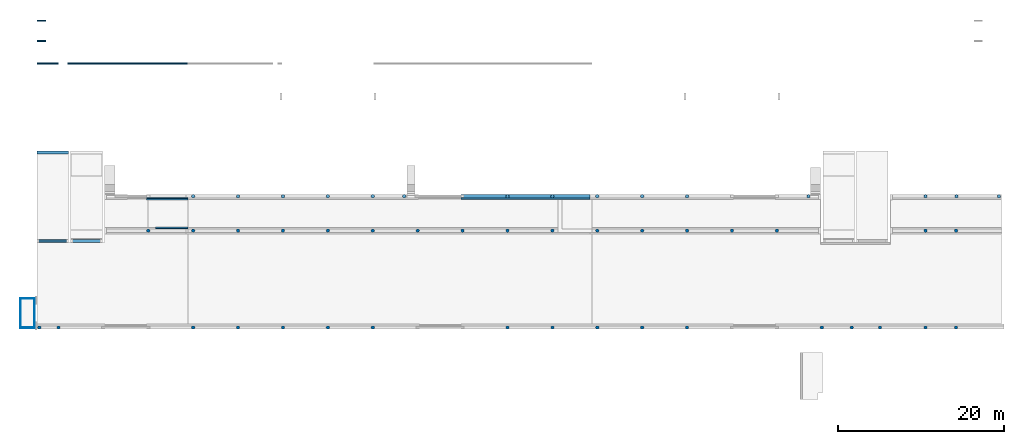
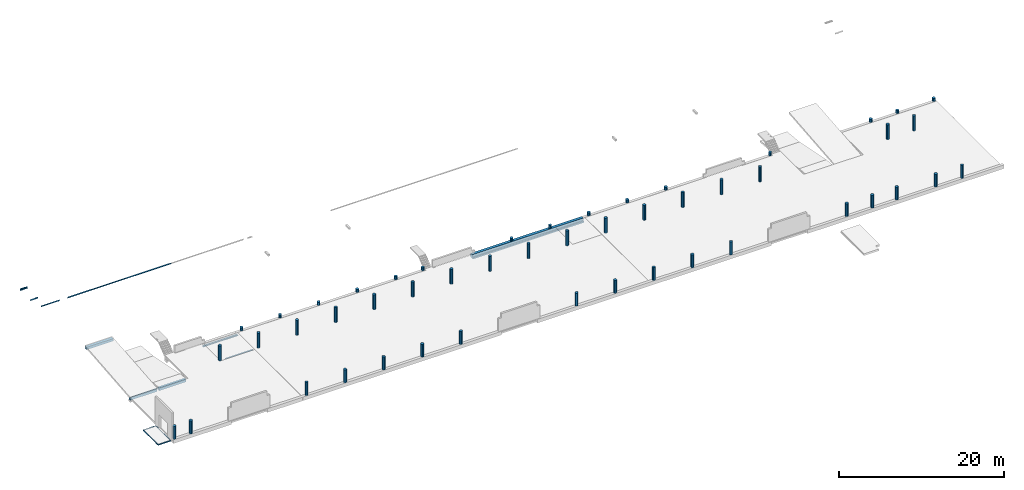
# One storey, part 1 of 6: 49 columns, 14 beams.
"""IFC2X3 building model written with IfcOpenShell, lengths in millimetres."""

from ifc_helpers import new_model, entity, si_unit, converted_unit, derived_unit, direction, frame, frame_2d, origin, place, context, subcontext, project, spatial, polyline, circle_curve, parameter, trimmed, segment, composite_curve, rectangle, circle, outline, extrude, source, transform, mapped, material, type_object, type_shapes, element, save


model = new_model("IFC2X3")

# Units and contexts
model_context = context("Model", 3, precision=0.01, world=origin(), true_north=direction((6.12303176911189e-17, 1.0)))
body_context = subcontext(model_context, "Body", "Model", "MODEL_VIEW")
ifc_project = project(units=[si_unit("LENGTHUNIT", "METRE", prefix="MILLI"), si_unit("AREAUNIT", "SQUARE_METRE"), si_unit("VOLUMEUNIT", "CUBIC_METRE"), converted_unit("PLANEANGLEUNIT", "DEGREE", entity("IfcRatioMeasure", 0.0174532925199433), si_unit("PLANEANGLEUNIT", "RADIAN"), dimensions=[0, 0, 0, 0, 0, 0, 0]), si_unit("MASSUNIT", "GRAM", prefix="KILO"), derived_unit("MASSDENSITYUNIT", [(si_unit("MASSUNIT", "GRAM", prefix="KILO"), 1), (si_unit("LENGTHUNIT", "METRE"), -3)]), si_unit("TIMEUNIT", "SECOND"), si_unit("FREQUENCYUNIT", "HERTZ"), si_unit("THERMODYNAMICTEMPERATUREUNIT", "DEGREE_CELSIUS"), derived_unit("THERMALTRANSMITTANCEUNIT", [(si_unit("MASSUNIT", "GRAM", prefix="KILO"), 1), (si_unit("THERMODYNAMICTEMPERATUREUNIT", "KELVIN"), -1), (si_unit("TIMEUNIT", "SECOND"), -3)]), derived_unit("VOLUMETRICFLOWRATEUNIT", [(si_unit("LENGTHUNIT", "METRE"), 3), (si_unit("TIMEUNIT", "SECOND"), -1)]), si_unit("ELECTRICCURRENTUNIT", "AMPERE"), si_unit("ELECTRICVOLTAGEUNIT", "VOLT"), si_unit("POWERUNIT", "WATT"), si_unit("FORCEUNIT", "NEWTON", prefix="KILO"), si_unit("ILLUMINANCEUNIT", "LUX"), si_unit("LUMINOUSFLUXUNIT", "LUMEN"), si_unit("LUMINOUSINTENSITYUNIT", "CANDELA"), derived_unit("USERDEFINED", [(si_unit("MASSUNIT", "GRAM", prefix="KILO"), -1), (si_unit("LENGTHUNIT", "METRE"), -2), (si_unit("TIMEUNIT", "SECOND"), 3), (si_unit("LUMINOUSFLUXUNIT", "LUMEN"), 1)]), derived_unit("LINEARVELOCITYUNIT", [(si_unit("LENGTHUNIT", "METRE"), 1), (si_unit("TIMEUNIT", "SECOND"), -1)]), si_unit("PRESSUREUNIT", "PASCAL"), derived_unit("USERDEFINED", [(si_unit("LENGTHUNIT", "METRE"), -2), (si_unit("MASSUNIT", "GRAM", prefix="KILO"), 1), (si_unit("TIMEUNIT", "SECOND"), -2)])], contexts=[model_context])

# Site, building, storey
site_placement = place(None, origin())
site = spatial("IfcSite", under=ifc_project, at=site_placement, Name="Default", CompositionType="ELEMENT")
building_placement = place(site_placement, origin())
building = spatial("IfcBuilding", under=site, at=building_placement, Name="niet gebruiken", CompositionType="ELEMENT")
storey_placement = place(building_placement, frame((0.0, 0.0, 8370.0)))
storey = spatial("IfcBuildingStorey", under=building, at=storey_placement, Name="02a eerste tussenverdieping", CompositionType="ELEMENT", Elevation=8369.99999999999)

# Columns
ifc_material_1 = material(Name="NLRS_f2_beton prefab")
column_type_1 = type_object("IfcColumnType", Name="ø400", PredefinedType="COLUMN", material=ifc_material_1)
shared_shape_1 = source(origin(), body_context, "Body", "SweptSolid", [
    extrude(circle(Radius=200.0, at=frame_2d((1.69197988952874e-14, -3.02923644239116e-13), x_axis=(1.0, 0.0))), frame((0.0, 0.0, 8400.0)), (0.0, 0.0, 1.0), 459.999999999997),
])
type_shapes(column_type_1, [shared_shape_1])
for number, where in (
    (1, (27000.0, 24976.0, -8370.0)),
    (2, (32400.0, 24976.0, -8370.0)),
    (3, (37800.0, 24976.0, -8370.0)),
    (4, (43200.0, 24976.0, -8370.0)),
    (5, (48600.0, 24976.0, -8370.0)),
    (6, (52390.0, 24976.0, -8370.0)),
    (7, (64800.0, 24976.0, -8370.0)),
    (8, (70200.0, 24976.0, -8370.0)),
    (9, (75600.0, 24976.0, -8370.0)),
    (10, (81000.0, 24976.0, -8370.0)),
    (11, (86400.0, 24976.0, -8370.0)),
    (12, (100990.0, 24976.0, -8370.0)),
    (13, (118800.0, 24976.0, -8370.0)),
    (14, (115075.000813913, 24976.0, -8370.0)),
):
    element("IfcColumn", number, at=place(storey_placement, frame(where)), inside=storey, type_object=column_type_1, material=ifc_material_1, Name="NLRS_28. kolom rond_gen:ø400", ObjectType="ø400", context=body_context, shape_type="MappedRepresentation", body=[
        mapped(shared_shape_1, transform((0.0, 0.0, 0.0), scale=1.0)),
    ])
column_type_2 = type_object("IfcColumnType", Name="ø400", PredefinedType="COLUMN", material=ifc_material_1)
shared_shape_2 = source(origin(), body_context, "Body", "SweptSolid", [
    extrude(circle(Radius=200.0, at=frame_2d((1.69197988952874e-14, -3.02923644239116e-13), x_axis=(1.0, 0.0))), frame((0.0, 0.0, 8320.0)), (0.0, 0.0, 1.0), 2240.0),
])
type_shapes(column_type_2, [shared_shape_2])
for number, where in (
    (15, (21600.0, 20846.0, -8370.0)),
    (16, (27000.0, 20846.0, -8370.0)),
    (17, (32400.0, 20846.0, -8370.0)),
    (18, (37800.0, 20846.0, -8370.0)),
    (19, (43200.0, 20846.0, -8370.0)),
    (20, (48600.0, 20846.0, -8370.0)),
    (21, (54000.0, 20846.0, -8370.0)),
    (22, (59400.0, 20846.0, -8370.0)),
    (23, (64800.0, 20846.0, -8370.0)),
    (24, (70200.0, 20846.0, -8370.0)),
    (25, (75600.0, 20846.0, -8370.0)),
    (26, (81000.0, 20846.0, -8370.0)),
    (27, (86400.0, 20846.0, -8370.0)),
    (28, (91800.0, 20846.0, -8370.0)),
    (29, (97200.0, 20846.0, -8370.0)),
    (30, (115075.000813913, 20846.0, -8370.0)),
    (31, (118750.0, 20846.0, -8370.0)),
):
    element("IfcColumn", number, at=place(storey_placement, frame(where)), inside=storey, type_object=column_type_2, material=ifc_material_1, Name="NLRS_28. kolom rond_gen:ø400", ObjectType="ø400", context=body_context, shape_type="MappedRepresentation", body=[
        mapped(shared_shape_2, transform((0.0, 0.0, 0.0), scale=1.0)),
    ])
column_type_3 = type_object("IfcColumnType", Name="ø400", PredefinedType="COLUMN", material=ifc_material_1)
shared_shape_3 = source(origin(), body_context, "Body", "SweptSolid", [
    extrude(circle(Radius=200.0, at=frame_2d((1.69197988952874e-14, -3.02923644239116e-13), x_axis=(1.0, 0.0))), frame((0.0, 0.0, 8400.0)), (0.0, 0.0, 1.0), 1910.0),
])
type_shapes(column_type_3, [shared_shape_3])
for number, where in (
    (32, (8500.0, 9196.0, -8370.0)),
    (33, (10800.0, 9196.0, -8370.0)),
    (34, (27000.0, 9196.0, -8370.0)),
    (35, (32400.0, 9196.0, -8370.0)),
    (36, (37800.0, 9196.0, -8370.0)),
    (37, (43200.0, 9196.0, -8370.0)),
    (38, (48600.0, 9196.0, -8370.0)),
    (39, (64800.0, 9196.0, -8370.0)),
    (40, (70200.0, 9196.0, -8370.0)),
    (41, (75600.0, 9196.0, -8370.0)),
    (42, (81000.0, 9196.0, -8370.0)),
    (43, (86400.0, 9196.0, -8370.0)),
    (44, (102600.0, 9196.0, -8370.0)),
    (45, (118750.0, 9196.0, -8370.0)),
    (46, (115075.0, 9196.0, -8370.0)),
    (47, (109600.0, 9196.0, -8370.0)),
    (48, (106200.0, 9196.0, -8370.0)),
):
    element("IfcColumn", number, at=place(storey_placement, frame(where)), inside=storey, type_object=column_type_3, material=ifc_material_1, Name="NLRS_28. kolom rond_gen:ø400", ObjectType="ø400", context=body_context, shape_type="MappedRepresentation", body=[
        mapped(shared_shape_3, transform((0.0, 0.0, 0.0), scale=1.0)),
    ])
column_type_4 = type_object("IfcColumnType", Name="ø400", PredefinedType="COLUMN", material=ifc_material_1)
shared_shape_4 = source(origin(), body_context, "Body", "SweptSolid", [
    extrude(circle(Radius=200.000000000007, at=frame_2d((-3.75232390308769e-25, -8.66293703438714e-12), x_axis=(1.0, 0.0))), frame((123900.0, 24976.0, 8400.0)), (0.0, 0.0, 1.0), 459.999999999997),
])
type_shapes(column_type_4, [shared_shape_4])
column_placement = place(storey_placement, frame((0.0, 0.0, -8370.0)))
element("IfcColumn", 49, at=column_placement, inside=storey, type_object=column_type_4, material=ifc_material_1, Name="NLRS_28. kolom rond_gen:ø400", ObjectType="ø400", context=body_context, shape_type="MappedRepresentation", body=[
    mapped(shared_shape_4, transform((0.0, 0.0, 0.0), scale=1.0)),
])

# Beams
ifc_material_2 = material(Name="NLRS_h2_staal")
beam_type_1 = type_object("IfcBeamType", Name="NLRS_28.11_SF_WPB_stalen ligger hoekprofiel gelijkzijdig_gen:ligger gelijzijdig hoekprofiel LEQU_150x150x15", PredefinedType="BEAM")
beam_1_placement = place(storey_placement, frame((8245.0, 46133.5000000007, -330.0)))
element("IfcBeam", 50, at=beam_1_placement, inside=storey, type_object=beam_type_1, material=ifc_material_2, Name="NLRS_28.11_SF_WPB_stalen ligger hoekprofiel gelijkzijdig_gen:ligger gelijzijdig hoekprofiel LEQU_150x150x15", ObjectType="NLRS_28.11_SF_WPB_stalen ligger hoekprofiel gelijkzijdig_gen:ligger gelijzijdig hoekprofiel LEQU_150x150x15", context=body_context, shape_type="SweptSolid", body=[
    extrude(outline(composite_curve([segment(polyline([(49.6666666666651, -93.3333333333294), (56.6666666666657, -93.3333333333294)]), True, "CONTINUOUS"), segment(polyline([(56.6666666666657, -93.3333333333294), (56.6666666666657, 56.6666666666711)]), True, "CONTINUOUS"), segment(polyline([(56.6666666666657, 56.6666666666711), (-93.3333333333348, 56.6666666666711)]), True, "CONTINUOUS"), segment(polyline([(-93.3333333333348, 56.6666666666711), (-93.3333333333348, 49.6666666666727)]), True, "CONTINUOUS"), segment(trimmed(circle_curve(frame_2d((-85.3333333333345, 49.6666666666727), x_axis=(-1.0, 0.0)), 7.99999999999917), [parameter(0.0)], [parameter(90.0000000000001)], True, "PARAMETER"), True, "CONTINUOUS"), segment(polyline([(-85.3333333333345, 41.6666666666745), (25.6666666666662, 41.6666666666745)]), True, "CONTINUOUS"), segment(trimmed(circle_curve(frame_2d((25.6666666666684, 25.6666666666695), x_axis=(0.0, 1.0)), 15.9999999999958), [parameter(269.999999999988)], [parameter(0.0)], True, "PARAMETER"), False, "CONTINUOUS"), segment(polyline([(41.6666666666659, 25.6666666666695), (41.6666666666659, -85.3333333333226)]), True, "CONTINUOUS"), segment(trimmed(circle_curve(frame_2d((49.6666666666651, -85.3333333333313), x_axis=(-1.0, 0.0)), 7.99999999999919), [parameter(0.0)], [parameter(90.0000000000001)], True, "PARAMETER"), True, "CONTINUOUS")], self_intersect=False)), frame((0.0, -14.1666666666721, 56.6666666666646), z_axis=(1.0, 0.0, 0.0), x_axis=(0.0, 0.0, -1.0)), (0.0, 0.0, 1.0), 999.999999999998),
])
beam_2_placement = place(storey_placement, frame((8245.0, 43618.5000000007, -330.0)))
element("IfcBeam", 51, at=beam_2_placement, inside=storey, type_object=beam_type_1, material=ifc_material_2, Name="NLRS_28.11_SF_WPB_stalen ligger hoekprofiel gelijkzijdig_gen:ligger gelijzijdig hoekprofiel LEQU_150x150x15", ObjectType="NLRS_28.11_SF_WPB_stalen ligger hoekprofiel gelijkzijdig_gen:ligger gelijzijdig hoekprofiel LEQU_150x150x15", context=body_context, shape_type="SweptSolid", body=[
    extrude(outline(composite_curve([segment(polyline([(-93.3333333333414, -56.6666666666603), (56.6666666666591, -56.6666666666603)]), True, "CONTINUOUS"), segment(polyline([(56.6666666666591, -56.6666666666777), (56.6666666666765, 93.3333333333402)]), True, "CONTINUOUS"), segment(polyline([(56.6666666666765, 93.3333333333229), (49.6666666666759, 93.333333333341)]), True, "CONTINUOUS"), segment(trimmed(circle_curve(frame_2d((49.666666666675, 85.3333333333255), x_axis=(0.0, 1.0)), 7.99999999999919), [parameter(0.0)], [parameter(90.0000000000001)], True, "PARAMETER"), True, "CONTINUOUS"), segment(polyline([(41.6666666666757, 85.3333333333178), (41.6666666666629, -25.6666666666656)]), True, "CONTINUOUS"), segment(trimmed(circle_curve(frame_2d((25.6666666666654, -25.6666666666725), x_axis=(1.0, 0.0)), 15.9999999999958), [parameter(269.999999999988)], [parameter(0.0)], True, "PARAMETER"), False, "CONTINUOUS"), segment(polyline([(25.6666666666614, -41.6666666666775), (-85.3333333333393, -41.6666666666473)]), True, "CONTINUOUS"), segment(trimmed(circle_curve(frame_2d((-85.3333333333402, -49.6666666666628), x_axis=(0.0, 1.0)), 7.99999999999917), [parameter(0.0)], [parameter(90.0000000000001)], True, "PARAMETER"), True, "CONTINUOUS"), segment(polyline([(-93.3333333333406, -49.6666666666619), (-93.3333333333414, -56.6666666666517)]), True, "CONTINUOUS")], self_intersect=False)), frame((0.0, 14.1666666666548, 56.6666666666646), z_axis=(1.0, 0.0, 0.0), x_axis=(0.0, 0.0, -1.0)), (0.0, 0.0, 1.0), 999.999999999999),
])
beam_type_2 = type_object("IfcBeamType", Name="NLRS_28.11_SF_WPB_prefabbeton balk enkele sponning_gen:600x540/200x200", PredefinedType="BEAM")
beam_3_placement = place(storey_placement, frame((59200.0, 24876.0, 10.0)))
element("IfcBeam", 52, at=beam_3_placement, inside=storey, type_object=beam_type_2, material=ifc_material_1, Name="NLRS_28.11_SF_WPB_prefabbeton balk enkele sponning_gen:600x540/200x200", ObjectType="NLRS_28.11_SF_WPB_prefabbeton balk enkele sponning_gen:600x540/200x200", context=body_context, shape_type="SweptSolid", body=[
    extrude(outline(polyline([(46.6666666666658, -266.666666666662), (246.666666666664, -266.666666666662), (246.666666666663, 333.333333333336), (-293.333333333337, 333.333333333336), (-293.333333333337, -66.6666666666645), (46.6666666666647, -66.6666666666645), (46.6666666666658, -266.666666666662)])), frame((0.0, -33.3333333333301, -293.333333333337), z_axis=(1.0, 0.0, 0.0), x_axis=(0.0, 0.0, -1.0)), (0.0, 0.0, 1.0), 15530.0000000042),
])
beam_type_3 = type_object("IfcBeamType", Name="NLRS_28.11_SF_WPB_stalen ligger hoekprofiel gelijkzijdig_gen:ligger gelijzijdig hoekprofiel LEQU_200x200x15", PredefinedType="BEAM")
beam_4_placement = place(storey_placement, frame((22470.0, 21246.0, -252.500000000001)))
element("IfcBeam", 53, at=beam_4_placement, inside=storey, type_object=beam_type_3, material=ifc_material_2, Name="NLRS_28.11_SF_WPB_stalen ligger hoekprofiel gelijkzijdig_gen:ligger gelijzijdig hoekprofiel LEQU_200x200x15", ObjectType="NLRS_28.11_SF_WPB_stalen ligger hoekprofiel gelijkzijdig_gen:ligger gelijzijdig hoekprofiel LEQU_200x200x15", context=body_context, shape_type="SweptSolid", body=[
    extrude(outline(composite_curve([segment(polyline([(-126.66666666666, -73.3333333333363), (73.3333333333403, -73.3333333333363)]), True, "CONTINUOUS"), segment(polyline([(73.3333333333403, -73.3333333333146), (73.333333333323, 126.666666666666)]), True, "CONTINUOUS"), segment(polyline([(73.333333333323, 126.666666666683), (66.3333333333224, 126.666666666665)]), True, "CONTINUOUS"), segment(trimmed(circle_curve(frame_2d((66.333333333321, 118.666666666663), x_axis=(0.0, 1.0)), 7.99999999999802), [parameter(0.0)], [parameter(90.0000000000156)], True, "PARAMETER"), True, "CONTINUOUS"), segment(polyline([(58.3333333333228, 118.666666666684), (58.3333333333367, -42.333333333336)]), True, "CONTINUOUS"), segment(trimmed(circle_curve(frame_2d((42.3333333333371, -42.3333333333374), x_axis=(1.0, 0.0)), 16.0000000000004), [parameter(270.0)], [parameter(0.0)], True, "PARAMETER"), False, "CONTINUOUS"), segment(polyline([(42.3333333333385, -58.3333333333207), (-118.666666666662, -58.333333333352)]), True, "CONTINUOUS"), segment(trimmed(circle_curve(frame_2d((-118.666666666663, -66.3333333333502), x_axis=(0.0, 1.0)), 7.99999999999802), [parameter(0.0)], [parameter(90.0000000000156)], True, "PARAMETER"), True, "CONTINUOUS"), segment(polyline([(-126.66666666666, -66.3333333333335), (-126.66666666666, -73.3333333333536)]), True, "CONTINUOUS")], self_intersect=False)), frame((10.0, -126.666666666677, -19.1666666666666), z_axis=(1.0, 0.0, 0.0), x_axis=(0.0, 0.0, -1.0)), (0.0, 0.0, 1.0), 3870.00000000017),
])
beam_5_placement = place(storey_placement, frame((21400.0, 24576.0, -252.499999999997)))
element("IfcBeam", 54, at=beam_5_placement, inside=storey, type_object=beam_type_3, material=ifc_material_2, Name="NLRS_28.11_SF_WPB_stalen ligger hoekprofiel gelijkzijdig_gen:ligger gelijzijdig hoekprofiel LEQU_200x200x15", ObjectType="NLRS_28.11_SF_WPB_stalen ligger hoekprofiel gelijkzijdig_gen:ligger gelijzijdig hoekprofiel LEQU_200x200x15", context=body_context, shape_type="SweptSolid", body=[
    extrude(outline(composite_curve([segment(polyline([(66.3333333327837, -126.66666666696), (73.3333333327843, -126.66666666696)]), True, "CONTINUOUS"), segment(polyline([(73.3333333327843, -126.66666666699), (73.3333333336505, 73.3333333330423)]), True, "CONTINUOUS"), segment(polyline([(73.3333333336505, 73.333333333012), (-126.666666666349, 73.3333333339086)]), True, "CONTINUOUS"), segment(polyline([(-126.666666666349, 73.333333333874), (-126.66666666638, 66.3333333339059)]), True, "CONTINUOUS"), segment(trimmed(circle_curve(frame_2d((-118.666666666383, 66.3333333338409), x_axis=(-1.0, 0.0)), 7.99999999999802), [parameter(0.0)], [parameter(90.0000000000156)], True, "PARAMETER"), True, "CONTINUOUS"), segment(polyline([(-118.666666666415, 58.3333333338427), (42.333333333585, 58.3333333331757)]), True, "CONTINUOUS"), segment(trimmed(circle_curve(frame_2d((42.3333333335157, 42.3333333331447), x_axis=(0.0, 1.0)), 16.0000000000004), [parameter(270.0)], [parameter(0.0)], True, "PARAMETER"), False, "CONTINUOUS"), segment(polyline([(58.3333333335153, 42.3333333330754), (58.333333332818, -118.666666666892)]), True, "CONTINUOUS"), segment(trimmed(circle_curve(frame_2d((66.3333333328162, -118.666666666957), x_axis=(-1.0, 0.0)), 7.99999999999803), [parameter(0.0)], [parameter(90.0000000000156)], True, "PARAMETER"), True, "CONTINUOUS")], self_intersect=False)), frame((0.0, 126.666666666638, -19.1666666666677), z_axis=(1.0, 0.0, 0.0), x_axis=(0.0, 0.0, -1.0)), (0.0, 0.0, 1.0), 4950.00000000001),
])
beam_type_4 = type_object("IfcBeamType", Name="NLRS_28.11_SF_WPB_prefabbeton balk recht_gen:380x350", PredefinedType="BEAM")
beam_6_placement = place(storey_placement, frame((8245.0, 30236.0, 940.0)))
element("IfcBeam", 55, at=beam_6_placement, inside=storey, type_object=beam_type_4, material=ifc_material_1, Name="NLRS_28.11_SF_WPB_prefabbeton balk recht_gen:380x350", ObjectType="NLRS_28.11_SF_WPB_prefabbeton balk recht_gen:380x350", context=body_context, shape_type="SweptSolid", body=[
    extrude(rectangle(XDim=349.999999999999, YDim=380.0, at=frame_2d((-5.40012479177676e-13, 8.66862137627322e-12), x_axis=(1.0, 0.0))), frame((0.0, 0.0, -175.0), z_axis=(1.0, 0.0, 0.0), x_axis=(0.0, 0.0, -1.0)), (0.0, 0.0, 1.0), 3760.00000000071),
])
beam_7_placement = place(storey_placement, frame((12295.0, 19616.0, -100.0)))
element("IfcBeam", 56, at=beam_7_placement, inside=storey, type_object=beam_type_4, material=ifc_material_1, Name="NLRS_28.11_SF_WPB_prefabbeton balk recht_gen:380x350", ObjectType="NLRS_28.11_SF_WPB_prefabbeton balk recht_gen:380x350", context=body_context, shape_type="SweptSolid", body=[
    extrude(rectangle(XDim=349.999999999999, YDim=380.000000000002, at=frame_2d((5.40012479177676e-13, 2.92459390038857e-11), x_axis=(1.0, 0.0))), frame((0.0, 0.0, -175.0), z_axis=(1.0, 0.0, 0.0), x_axis=(0.0, 0.0, -1.0)), (0.0, 0.0, 1.0), 3759.99999999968),
])
beam_type_5 = type_object("IfcBeamType", Name="NLRS_28.11_SF_WPB_prefabbeton balk enkele sponning_gen:380x370/180x150", PredefinedType="BEAM")
beam_8_placement = place(storey_placement, frame((8245.0, 19616.0, -80.0)))
element("IfcBeam", 57, at=beam_8_placement, inside=storey, type_object=beam_type_5, material=ifc_material_1, Name="NLRS_28.11_SF_WPB_prefabbeton balk enkele sponning_gen:380x370/180x150", ObjectType="NLRS_28.11_SF_WPB_prefabbeton balk enkele sponning_gen:380x370/180x150", context=body_context, shape_type="SweptSolid", body=[
    extrude(outline(polyline([(-173.333333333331, -193.333333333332), (196.66666666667, -193.333333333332), (196.666666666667, 186.666666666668), (-23.3333333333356, 186.666666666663), (-23.3333333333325, 6.66666666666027), (-173.333333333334, 6.66666666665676), (-173.333333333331, -193.333333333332)])), frame((0.0, 3.33333333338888, -173.333333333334), z_axis=(1.0, 0.0, 0.0), x_axis=(0.0, 0.0, -1.0)), (0.0, 0.0, 1.0), 3760.0000000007),
])
beam_type_6 = type_object("IfcBeamType", Name="NLRS_28.11_SF_WPB_stalen ligger hoekprofiel gelijkzijdig_gen:ligger gelijzijdig hoekprofiel LEQU_100x100x10", PredefinedType="BEAM")
beam_9_placement = place(storey_placement, frame((6175.0, 9136.0, -40.0), z_axis=(0.0, 0.0, 1.0), x_axis=(0.0, 1.0, 0.0)))
element("IfcBeam", 58, at=beam_9_placement, inside=storey, type_object=beam_type_6, material=ifc_material_2, Name="NLRS_28.11_SF_WPB_stalen ligger hoekprofiel gelijkzijdig_gen:ligger gelijzijdig hoekprofiel LEQU_100x100x10", ObjectType="NLRS_28.11_SF_WPB_stalen ligger hoekprofiel gelijkzijdig_gen:ligger gelijzijdig hoekprofiel LEQU_100x100x10", context=body_context, shape_type="SweptSolid", body=[
    extrude(outline(composite_curve([segment(polyline([(-37.7777777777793, -62.2222222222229), (-33.777777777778, -62.2222222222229)]), True, "CONTINUOUS"), segment(trimmed(circle_curve(frame_2d((-33.777777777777, -56.2222222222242), x_axis=(0.0, -1.0)), 5.9999999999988), [parameter(0.0)], [parameter(90.0000000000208)], True, "PARAMETER"), True, "CONTINUOUS"), segment(polyline([(-27.7777777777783, -56.2222222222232), (-27.7777777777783, 15.7777777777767)]), True, "CONTINUOUS"), segment(trimmed(circle_curve(frame_2d((-15.7777777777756, 15.7777777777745), x_axis=(-1.0, 0.0)), 12.0000000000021), [parameter(270.000000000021)], [parameter(0.0)], True, "PARAMETER"), False, "CONTINUOUS"), segment(polyline([(-15.7777777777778, 27.7777777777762), (56.2222222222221, 27.7777777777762)]), True, "CONTINUOUS"), segment(trimmed(circle_curve(frame_2d((56.2222222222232, 33.7777777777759), x_axis=(0.0, -1.0)), 5.9999999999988), [parameter(0.0)], [parameter(90.0000000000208)], True, "PARAMETER"), True, "CONTINUOUS"), segment(polyline([(62.2222222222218, 33.7777777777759), (62.2222222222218, 37.7777777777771)]), True, "CONTINUOUS"), segment(polyline([(62.2222222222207, 37.7777777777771), (-37.7777777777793, 37.7777777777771)]), True, "CONTINUOUS"), segment(polyline([(-37.7777777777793, 37.7777777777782), (-37.7777777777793, -62.2222222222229)]), True, "CONTINUOUS")], self_intersect=False)), frame((125.0, -37.777777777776, -37.7777777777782), z_axis=(1.0, 0.0, 0.0), x_axis=(0.0, 0.0, -1.0)), (0.0, 0.0, 1.0), 3350.00000000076),
])
beam_10_placement = place(storey_placement, frame((7975.0, 12736.0, -40.0), z_axis=(0.0, 0.0, 1.0), x_axis=(-1.0, 0.0, 0.0)))
element("IfcBeam", 59, at=beam_10_placement, inside=storey, type_object=beam_type_6, material=ifc_material_2, Name="NLRS_28.11_SF_WPB_stalen ligger hoekprofiel gelijkzijdig_gen:ligger gelijzijdig hoekprofiel LEQU_100x100x10", ObjectType="NLRS_28.11_SF_WPB_stalen ligger hoekprofiel gelijkzijdig_gen:ligger gelijzijdig hoekprofiel LEQU_100x100x10", context=body_context, shape_type="SweptSolid", body=[
    extrude(outline(composite_curve([segment(polyline([(-37.7777777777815, -37.7777777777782), (62.2222222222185, -37.7777777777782)]), True, "CONTINUOUS"), segment(polyline([(62.2222222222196, -37.7777777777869), (62.2222222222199, -33.7777777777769)]), True, "CONTINUOUS"), segment(trimmed(circle_curve(frame_2d((56.2222222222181, -33.7777777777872), x_axis=(1.0, 0.0)), 6.00000000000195), [parameter(0.0)], [parameter(89.9999999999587)], True, "PARAMETER"), True, "CONTINUOUS"), segment(polyline([(56.2222222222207, -27.7777777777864), (-15.7777777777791, -27.7777777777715)]), True, "CONTINUOUS"), segment(trimmed(circle_curve(frame_2d((-15.7777777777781, -15.7777777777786), x_axis=(0.0, -1.0)), 11.9999999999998), [parameter(270.0)], [parameter(0.0)], True, "PARAMETER"), False, "CONTINUOUS"), segment(polyline([(-27.7777777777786, -15.7777777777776), (-27.7777777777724, 56.2222222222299)]), True, "CONTINUOUS"), segment(trimmed(circle_curve(frame_2d((-33.7777777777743, 56.2222222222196), x_axis=(1.0, 0.0)), 6.00000000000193), [parameter(0.0)], [parameter(89.9999999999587)], True, "PARAMETER"), True, "CONTINUOUS"), segment(polyline([(-33.7777777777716, 62.2222222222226), (-37.7777777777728, 62.2222222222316)]), True, "CONTINUOUS"), segment(polyline([(-37.7777777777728, 62.2222222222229), (-37.7777777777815, -37.7777777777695)]), True, "CONTINUOUS")], self_intersect=False)), frame((25.0, 37.7777777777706, -37.7777777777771), z_axis=(1.0, 0.0, 0.0), x_axis=(0.0, 0.0, -1.0)), (0.0, 0.0, 1.0), 1749.99999999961),
])
beam_11_placement = place(storey_placement, frame((7975.0, 9136.0, -40.0), z_axis=(0.0, 0.0, 1.0), x_axis=(-1.0, 0.0, 0.0)))
element("IfcBeam", 60, at=beam_11_placement, inside=storey, type_object=beam_type_6, material=ifc_material_2, Name="NLRS_28.11_SF_WPB_stalen ligger hoekprofiel gelijkzijdig_gen:ligger gelijzijdig hoekprofiel LEQU_100x100x10", ObjectType="NLRS_28.11_SF_WPB_stalen ligger hoekprofiel gelijkzijdig_gen:ligger gelijzijdig hoekprofiel LEQU_100x100x10", context=body_context, shape_type="SweptSolid", body=[
    extrude(outline(composite_curve([segment(polyline([(-37.7777777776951, -62.2222222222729), (-33.7777777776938, -62.2222222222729)]), True, "CONTINUOUS"), segment(trimmed(circle_curve(frame_2d((-33.7777777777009, -56.2222222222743), x_axis=(0.0, -1.0)), 5.9999999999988), [parameter(0.0)], [parameter(90.0000000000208)], True, "PARAMETER"), True, "CONTINUOUS"), segment(polyline([(-27.7777777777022, -56.2222222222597), (-27.7777777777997, 15.7777777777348)]), True, "CONTINUOUS"), segment(trimmed(circle_curve(frame_2d((-15.777777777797, 15.7777777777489), x_axis=(-1.0, 0.0)), 12.0000000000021), [parameter(270.000000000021)], [parameter(0.0)], True, "PARAMETER"), False, "CONTINUOUS"), segment(polyline([(-15.7777777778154, 27.7777777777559), (56.2222222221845, 27.7777777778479)]), True, "CONTINUOUS"), segment(trimmed(circle_curve(frame_2d((56.2222222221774, 33.7777777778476), x_axis=(0.0, -1.0)), 5.9999999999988), [parameter(0.0)], [parameter(90.0000000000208)], True, "PARAMETER"), True, "CONTINUOUS"), segment(polyline([(62.2222222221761, 33.7777777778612), (62.2222222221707, 37.777777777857)]), True, "CONTINUOUS"), segment(polyline([(62.2222222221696, 37.7777777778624), (-37.7777777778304, 37.7777777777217)]), True, "CONTINUOUS"), segment(polyline([(-37.7777777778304, 37.7777777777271), (-37.7777777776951, -62.2222222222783)]), True, "CONTINUOUS")], self_intersect=False)), frame((25.0, -37.777777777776, -37.7777777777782), z_axis=(1.0, 0.0, 0.0), x_axis=(0.0, 0.0, -1.0)), (0.0, 0.0, 1.0), 1749.99999999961),
])
beam_12_placement = place(storey_placement, frame((7975.0, 9136.0, -40.0), z_axis=(0.0, 0.0, 1.0), x_axis=(0.0, 1.0, 0.0)))
element("IfcBeam", 61, at=beam_12_placement, inside=storey, type_object=beam_type_6, material=ifc_material_2, Name="NLRS_28.11_SF_WPB_stalen ligger hoekprofiel gelijkzijdig_gen:ligger gelijzijdig hoekprofiel LEQU_100x100x10", ObjectType="NLRS_28.11_SF_WPB_stalen ligger hoekprofiel gelijkzijdig_gen:ligger gelijzijdig hoekprofiel LEQU_100x100x10", context=body_context, shape_type="SweptSolid", body=[
    extrude(outline(composite_curve([segment(polyline([(-37.7777777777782, -37.7777777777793), (62.2222222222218, -37.7777777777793)]), True, "CONTINUOUS"), segment(polyline([(62.2222222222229, -37.7777777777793), (62.2222222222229, -33.777777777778)]), True, "CONTINUOUS"), segment(trimmed(circle_curve(frame_2d((56.2222222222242, -33.777777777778), x_axis=(1.0, 0.0)), 5.9999999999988), [parameter(0.0)], [parameter(90.0000000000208)], True, "PARAMETER"), True, "CONTINUOUS"), segment(polyline([(56.2222222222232, -27.7777777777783), (-15.7777777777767, -27.7777777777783)]), True, "CONTINUOUS"), segment(trimmed(circle_curve(frame_2d((-15.7777777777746, -15.7777777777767), x_axis=(0.0, -1.0)), 12.0000000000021), [parameter(270.000000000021)], [parameter(0.0)], True, "PARAMETER"), False, "CONTINUOUS"), segment(polyline([(-27.7777777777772, -15.7777777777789), (-27.7777777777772, 56.222222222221)]), True, "CONTINUOUS"), segment(trimmed(circle_curve(frame_2d((-33.7777777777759, 56.2222222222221), x_axis=(1.0, 0.0)), 5.9999999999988), [parameter(0.0)], [parameter(90.0000000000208)], True, "PARAMETER"), True, "CONTINUOUS"), segment(polyline([(-33.777777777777, 62.2222222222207), (-37.7777777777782, 62.2222222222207)]), True, "CONTINUOUS"), segment(polyline([(-37.7777777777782, 62.2222222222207), (-37.7777777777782, -37.7777777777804)]), True, "CONTINUOUS")], self_intersect=False)), frame((125.0, 37.7777777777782, -37.7777777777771), z_axis=(1.0, 0.0, 0.0), x_axis=(0.0, 0.0, -1.0)), (0.0, 0.0, 1.0), 3350.00000000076),
])
beam_type_7 = type_object("IfcBeamType", Name="NLRS_28.11_SF_WPB_stalen ligger hoekprofiel gelijkzijdig_gen:ligger gelijzijdig hoekprofiel LEQU_200x200x16", PredefinedType="BEAM")
beam_13_placement = place(storey_placement, frame((11925.0, 41061.0, 440.0)))
element("IfcBeam", 62, at=beam_13_placement, inside=storey, type_object=beam_type_7, material=ifc_material_2, Name="NLRS_28.11_SF_WPB_stalen ligger hoekprofiel gelijkzijdig_gen:ligger gelijzijdig hoekprofiel LEQU_200x200x16", ObjectType="NLRS_28.11_SF_WPB_stalen ligger hoekprofiel gelijkzijdig_gen:ligger gelijzijdig hoekprofiel LEQU_200x200x16", context=body_context, shape_type="SweptSolid", body=[
    extrude(outline(composite_curve([segment(polyline([(-73.7777777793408, -126.222222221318), (-66.7777777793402, -126.222222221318)]), True, "CONTINUOUS"), segment(trimmed(circle_curve(frame_2d((-66.7777777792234, -117.222222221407), x_axis=(0.0, -1.0)), 8.99999999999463), [parameter(0.0)], [parameter(90.0000000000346)], True, "PARAMETER"), True, "CONTINUOUS"), segment(polyline([(-57.7777777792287, -117.222222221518), (-57.7777777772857, 39.7777777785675)]), True, "CONTINUOUS"), segment(trimmed(circle_curve(frame_2d((-39.7777777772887, 39.7777777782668), x_axis=(-1.0, 0.0)), 17.9999999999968), [parameter(269.99999999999)], [parameter(0.0)], True, "PARAMETER"), False, "CONTINUOUS"), segment(polyline([(-39.7777777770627, 57.7777777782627), (117.222222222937, 57.7777777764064)]), True, "CONTINUOUS"), segment(trimmed(circle_curve(frame_2d((117.222222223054, 66.7777777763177), x_axis=(0.0, -1.0)), 8.99999999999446), [parameter(0.0)], [parameter(90.0000000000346)], True, "PARAMETER"), True, "CONTINUOUS"), segment(polyline([(126.222222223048, 66.7777777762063), (126.222222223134, 73.7777777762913)]), True, "CONTINUOUS"), segment(polyline([(126.222222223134, 73.7777777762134), (-73.7777777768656, 73.7777777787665)]), True, "CONTINUOUS"), segment(polyline([(-73.7777777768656, 73.7777777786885), (-73.7777777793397, -126.222222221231)]), True, "CONTINUOUS")], self_intersect=False)), frame((20.0, -73.7777777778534, -73.7777777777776), z_axis=(1.0, 0.0, 0.0), x_axis=(0.0, 0.0, -1.0)), (0.0, 0.0, 1.0), 14405.0000000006),
])
beam_14_placement = place(storey_placement, frame((8245.0, 41061.0, 440.0)))
element("IfcBeam", 63, at=beam_14_placement, inside=storey, type_object=beam_type_7, material=ifc_material_2, Name="NLRS_28.11_SF_WPB_stalen ligger hoekprofiel gelijkzijdig_gen:ligger gelijzijdig hoekprofiel LEQU_200x200x16", ObjectType="NLRS_28.11_SF_WPB_stalen ligger hoekprofiel gelijkzijdig_gen:ligger gelijzijdig hoekprofiel LEQU_200x200x16", context=body_context, shape_type="SweptSolid", body=[
    extrude(outline(composite_curve([segment(polyline([(-73.7777777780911, -126.22222222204), (-66.7777777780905, -126.22222222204)]), True, "CONTINUOUS"), segment(trimmed(circle_curve(frame_2d((-66.7777777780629, -117.222222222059), x_axis=(0.0, -1.0)), 8.99999999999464), [parameter(0.0)], [parameter(90.0000000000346)], True, "PARAMETER"), True, "CONTINUOUS"), segment(polyline([(-57.7777777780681, -117.222222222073), (-57.7777777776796, 39.7777777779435)]), True, "CONTINUOUS"), segment(trimmed(circle_curve(frame_2d((-39.7777777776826, 39.7777777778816), x_axis=(-1.0, 0.0)), 17.9999999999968), [parameter(269.99999999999)], [parameter(0.0)], True, "PARAMETER"), False, "CONTINUOUS"), segment(polyline([(-39.7777777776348, 57.7777777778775), (117.222222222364, 57.7777777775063)]), True, "CONTINUOUS"), segment(trimmed(circle_curve(frame_2d((117.222222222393, 66.7777777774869), x_axis=(0.0, -1.0)), 8.99999999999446), [parameter(0.0)], [parameter(90.0000000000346)], True, "PARAMETER"), True, "CONTINUOUS"), segment(polyline([(126.222222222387, 66.7777777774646), (126.222222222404, 73.7777777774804)]), True, "CONTINUOUS"), segment(polyline([(126.222222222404, 73.7777777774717), (-73.7777777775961, 73.777777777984)]), True, "CONTINUOUS"), segment(polyline([(-73.7777777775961, 73.7777777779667), (-73.7777777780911, -126.222222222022)]), True, "CONTINUOUS")], self_intersect=False)), frame((0.0, -73.7777777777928, -73.7777777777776), z_axis=(1.0, 0.0, 0.0), x_axis=(0.0, 0.0, -1.0)), (0.0, 0.0, 1.0), 2549.9999929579),
])

save(model, "model.ifc")
